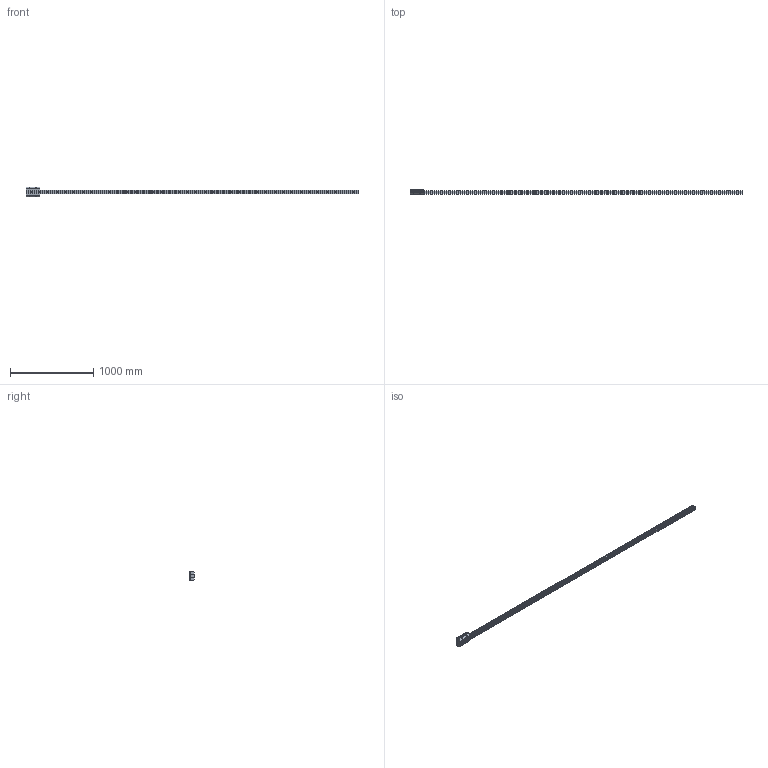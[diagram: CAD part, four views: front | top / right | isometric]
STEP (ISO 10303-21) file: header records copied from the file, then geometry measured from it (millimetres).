
FILE_DESCRIPTION( ( 'STEP AP203' ), '1' );
FILE_NAME( 'p:/temp/worker_11/temp/exporttempdir_3648_543_OBcaO/format_0/FDI45 84365NV_4000-0.stp', '2021-02-04T01:58:23', ( 'License CC BY-ND 4.0' ), ( 'CADENAS' ), ' ', 'PARTsolutions', ' ' );
FILE_SCHEMA( ( 'CONFIG_CONTROL_DESIGN' ) );
Length unit declared in the file: millimetre
Products named in the file (3): FDI45 84365NV_4000-0; _FDI K_45K-4000-0; _FDI_45K Slider
Assembly tree (2 placements, depth 2):
  FDI45 84365NV_4000-0
    _FDI K_45K-4000-0
    _FDI_45K Slider
Bounding box: 4000 x 60 x 120 mm (x, y, z)
Volume: 6858571.7 mm3; surface area: 1020833.8 mm2
Topology: 2 solids, 2 shells, 466 faces, 1229 edges, 830 vertices
Faces by surface type: cylinder 230, plane 225, torus 8, cone 3
Full cylindrical faces by diameter (mm): 10.106 x4, 11 x38, 13 x8, 14 x4, 15 x8, 18 x38
Entity records: 13929 total; most frequent: DIRECTION 2479, CARTESIAN_POINT 2355, ORIENTED_EDGE 2142, EDGE_CURVE 1071, AXIS2_PLACEMENT_3D 946, VERTEX_POINT 780, EDGE_LOOP 729, LINE 587
